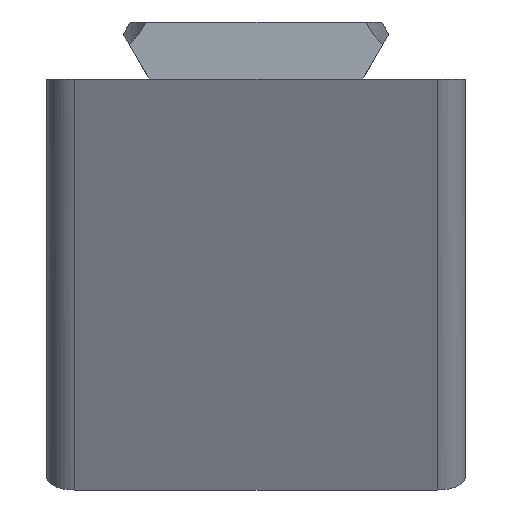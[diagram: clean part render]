
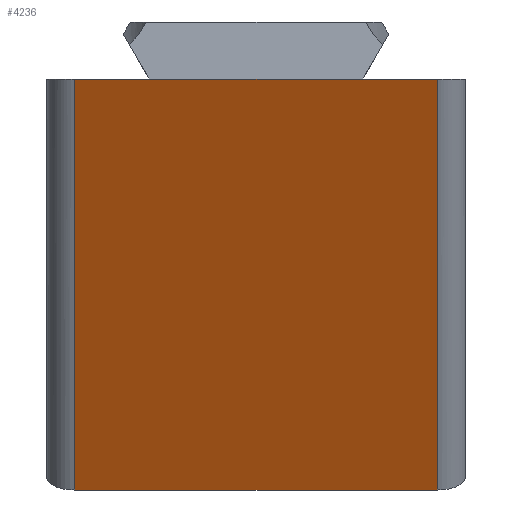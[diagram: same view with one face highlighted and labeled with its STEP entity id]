
A CAD part, left-side view. The second image highlights one B-rep face of the part: STEP entity #4236.
In plain terms, the highlighted planar face has unit normal (-0.891, 0, -0.454).
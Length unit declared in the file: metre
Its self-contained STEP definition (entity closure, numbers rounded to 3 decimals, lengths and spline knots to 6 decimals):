
#602=ORIENTED_EDGE('',*,*,#1652,.T.);
#603=ORIENTED_EDGE('',*,*,#1849,.T.);
#604=ORIENTED_EDGE('',*,*,#1605,.F.);
#605=ORIENTED_EDGE('',*,*,#1850,.T.);
#606=ORIENTED_EDGE('',*,*,#1670,.T.);
#607=ORIENTED_EDGE('',*,*,#1844,.T.);
#1605=EDGE_CURVE('',#2245,#2246,#2671,.T.);
#1652=EDGE_CURVE('',#2293,#2292,#2695,.T.);
#1670=EDGE_CURVE('',#2311,#2310,#2706,.T.);
#1844=EDGE_CURVE('',#2310,#2293,#2804,.T.);
#1849=EDGE_CURVE('',#2292,#2246,#2805,.T.);
#1850=EDGE_CURVE('',#2245,#2311,#2806,.F.);
#2245=VERTEX_POINT('',#5853);
#2246=VERTEX_POINT('',#5855);
#2292=VERTEX_POINT('',#5951);
#2293=VERTEX_POINT('',#5953);
#2310=VERTEX_POINT('',#5987);
#2311=VERTEX_POINT('',#5989);
#2671=LINE('',#5854,#3104);
#2695=LINE('',#5952,#3128);
#2706=LINE('',#5988,#3139);
#2804=LINE('',#6411,#3237);
#2805=LINE('',#6422,#3238);
#2806=LINE('',#6423,#3239);
#3104=VECTOR('',#4793,1.);
#3128=VECTOR('',#4871,1.);
#3139=VECTOR('',#4896,1.);
#3237=VECTOR('',#5094,1.);
#3238=VECTOR('',#5111,1.);
#3239=VECTOR('',#5112,1.);
#3576=EDGE_LOOP('',(#602,#603,#604,#605,#606,#607));
#3847=FACE_BOUND('',#3576,.T.);
#4092=PLANE('',#4560);
#4236=ADVANCED_FACE('',(#3847),#4092,.F.);
#4560=AXIS2_PLACEMENT_3D('',#6421,#5109,#5110);
#4793=DIRECTION('',(0.,1.,0.));
#4871=DIRECTION('',(0.,1.,0.));
#4896=DIRECTION('',(0.,1.,0.));
#5094=DIRECTION('',(0.,1.,0.));
#5109=DIRECTION('',(0.891,0.,0.454));
#5110=DIRECTION('',(0.454,0.,-0.891));
#5111=DIRECTION('',(0.454,0.,-0.891));
#5112=DIRECTION('',(0.454,0.,-0.891));
#5853=CARTESIAN_POINT('',(0.014993,-0.013,-0.029425));
#5854=CARTESIAN_POINT('',(0.014993,-0.015,-0.029425));
#5855=CARTESIAN_POINT('',(0.014993,0.013,-0.029425));
#5951=CARTESIAN_POINT('',(0.,0.013,0.));
#5952=CARTESIAN_POINT('',(0.,-0.015,0.));
#5953=CARTESIAN_POINT('',(0.,0.007695,0.));
#5987=CARTESIAN_POINT('',(0.,-0.007695,0.));
#5988=CARTESIAN_POINT('',(0.,-0.015,0.));
#5989=CARTESIAN_POINT('',(0.,-0.013,0.));
#6411=CARTESIAN_POINT('',(0.,0.,0.));
#6421=CARTESIAN_POINT('',(0.007496,-0.015,-0.014712));
#6422=CARTESIAN_POINT('',(0.007496,0.013,-0.014712));
#6423=CARTESIAN_POINT('',(0.,-0.013,0.));
